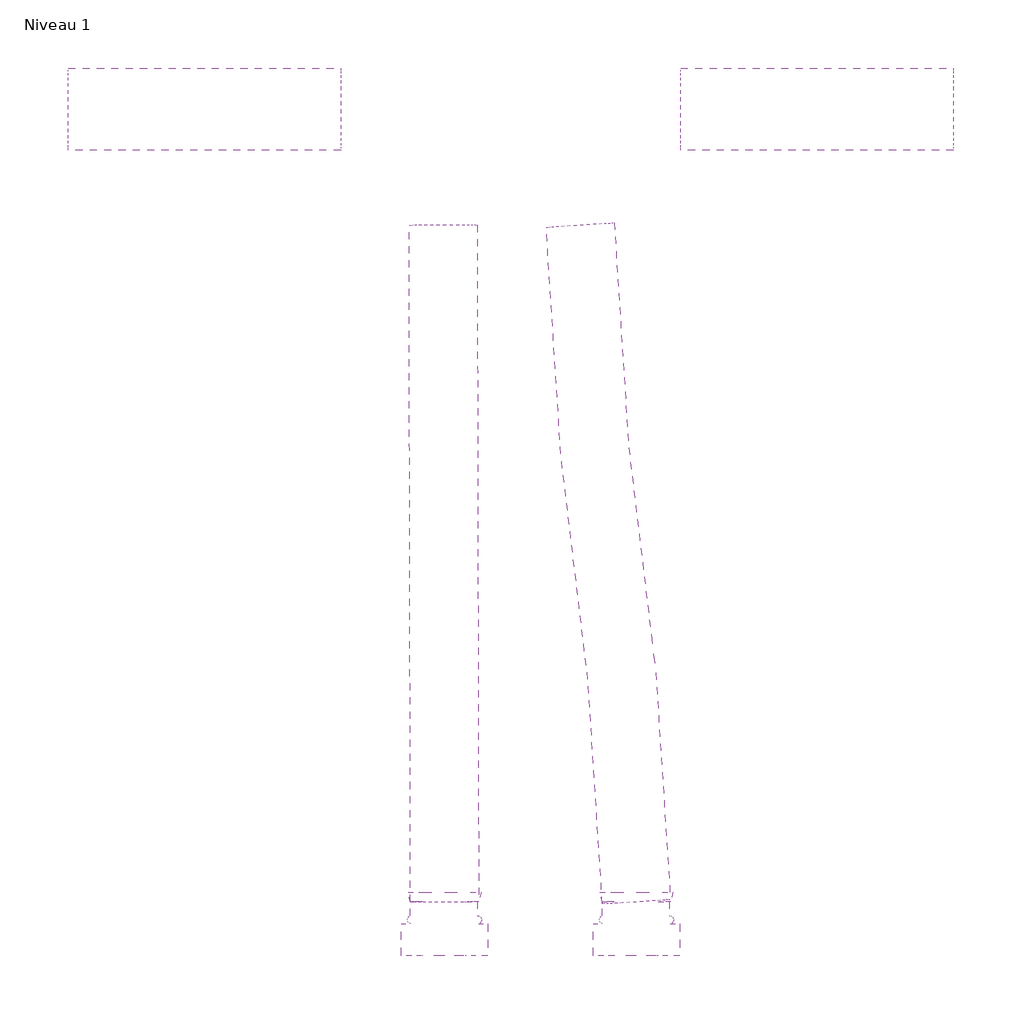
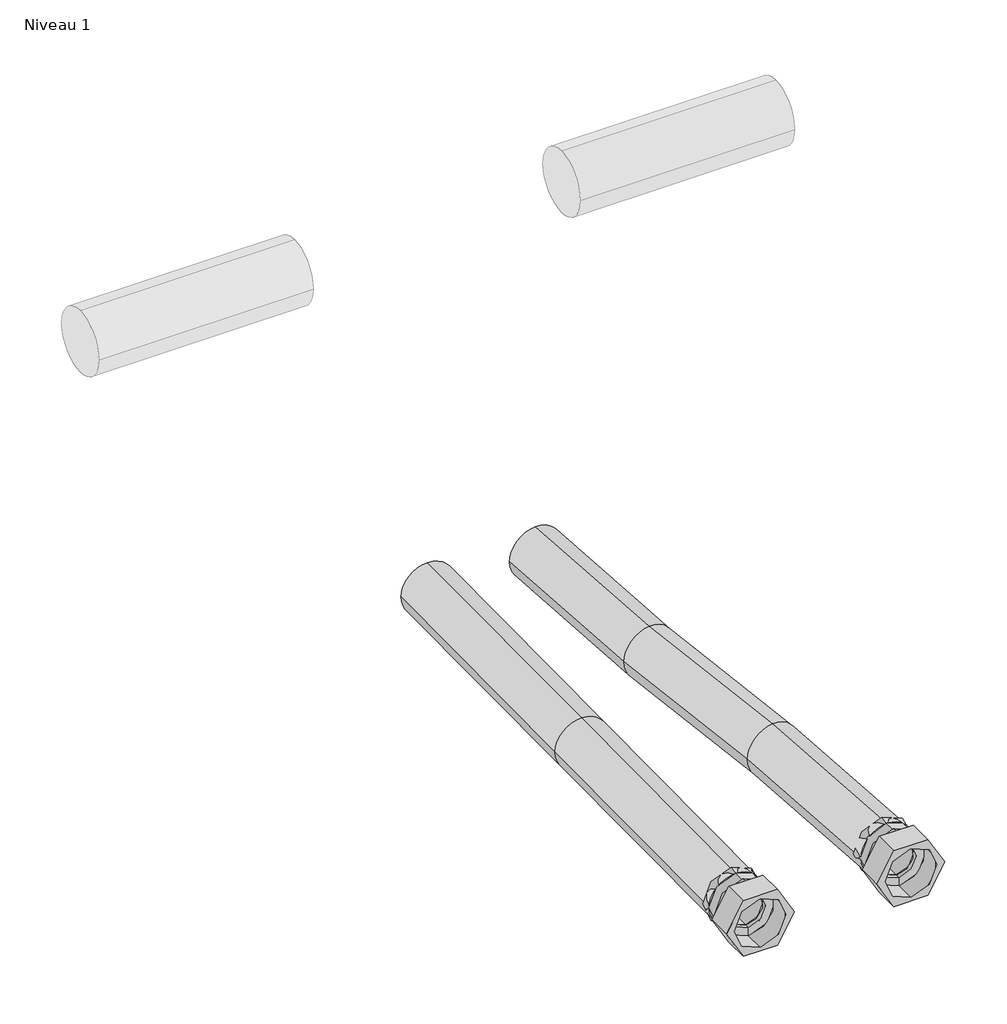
# One storey, incomplete: 4 pipe segments, 2 pipe fittings.
"""IFC4 building model written with IfcOpenShell, lengths in millimetres."""

import ifcopenshell
import ifcopenshell.guid

model = None  # the IFC model being written
_history = None  # IfcOwnerHistory: only IFC2X3 demands one
_inside = {}  # id of a spatial element -> (the spatial element, [elements in it])
_under = {}  # id of a project, library or spatial element -> (it, [spatial elements below it])
_declared = {}  # id of a project -> (the project, [libraries it declares])
_typed = {}  # id of a type object -> (the type object, [elements of that type])
_made_of = {}  # id of a material, layer set ... -> (it, [elements and type objects made of it])


def new_model(schema):
    """Start an empty IFC model of exactly this schema.

    Asked for "IFC4X3", IfcOpenShell would pick the latest addendum, in which some entities
    have other attributes; the version numbers below select the first issue.
    IFC2X3 requires an IfcOwnerHistory on every rooted entity: one is made here for all.
    """
    global model, _history
    if schema == "IFC4X3":
        model = ifcopenshell.file(schema_version=(4, 3, 0, 0))
    else:
        model = ifcopenshell.file(schema=schema)
    _inside.clear()
    _under.clear()
    _declared.clear()
    _typed.clear()
    _made_of.clear()
    _history = None
    if model.schema == "IFC2X3":
        org = make("IfcOrganization", Name="unknown")
        user = make(
            "IfcPersonAndOrganization",
            ThePerson=make("IfcPerson", FamilyName="unknown"),
            TheOrganization=org,
        )
        app = make(
            "IfcApplication",
            ApplicationDeveloper=org,
            Version="unknown",
            ApplicationFullName="unknown",
            ApplicationIdentifier="unknown",
        )
        _history = make(
            "IfcOwnerHistory",
            OwningUser=user,
            OwningApplication=app,
            ChangeAction="ADDED",
            CreationDate=0,
        )
    return model


def make(cls, **values):
    """One entity of the class cls with the attributes given. An attribute that is None is left unset."""
    return model.create_entity(
        cls, **{name: value for name, value in values.items() if value is not None}
    )


def rooted(cls, **values):
    """An entity with a GlobalId (a new one), such as an element, a storey or a relation."""
    return make(cls, GlobalId=ifcopenshell.guid.new(), OwnerHistory=_history, **values)


def si_unit(unit_type, name, prefix=None):
    """IfcSIUnit, for example si_unit("LENGTHUNIT", "METRE", prefix="MILLI")."""
    return make("IfcSIUnit", UnitType=unit_type, Prefix=prefix, Name=name)


def assignment(units):
    """IfcUnitAssignment: the units of a project."""
    return None if units is None else make("IfcUnitAssignment", Units=units)


def point(xyz):
    """IfcCartesianPoint."""
    return None if xyz is None else make("IfcCartesianPoint", Coordinates=xyz)


def direction(xyz):
    """IfcDirection."""
    return None if xyz is None else make("IfcDirection", DirectionRatios=xyz)


def frame(location, z_axis=None, x_axis=None):
    """IfcAxis2Placement3D, a coordinate frame: its origin and axes. An axis left out is left unset."""
    return make(
        "IfcAxis2Placement3D",
        Location=point(location),
        Axis=direction(z_axis),
        RefDirection=direction(x_axis),
    )


def frame_2d(location, x_axis=None):
    """IfcAxis2Placement2D, a coordinate frame in the plane: its origin and x axis."""
    return make(
        "IfcAxis2Placement2D", Location=point(location), RefDirection=direction(x_axis)
    )


def origin():
    """The frame at (0, 0, 0) with its axes left unset."""
    return frame((0.0, 0.0, 0.0))


def place(relative_to, where):
    """IfcLocalPlacement: puts the frame where relative to a parent placement (None: the world)."""
    return make(
        "IfcLocalPlacement", PlacementRelTo=relative_to, RelativePlacement=where
    )


def context(
    kind, dimensions, precision=None, world=None, true_north=None, identifier=None
):
    """IfcGeometricRepresentationContext, for example the 3D "Model" context."""
    return make(
        "IfcGeometricRepresentationContext",
        ContextIdentifier=identifier,
        ContextType=kind,
        CoordinateSpaceDimension=dimensions,
        Precision=precision,
        WorldCoordinateSystem=world,
        TrueNorth=true_north,
    )


def project(units=None, contexts=None):
    """IfcProject with its units and contexts."""
    return rooted(
        "IfcProject",
        Name="project",
        RepresentationContexts=contexts,
        UnitsInContext=assignment(units),
    )


def spatial(cls, under=None, at=None, **own):
    """A site, building, storey or space (cls), placed at a placement, below another one or the project."""
    s = rooted(cls, ObjectPlacement=at, **own)
    if under is not None:
        _under.setdefault(under.id(), (under, []))[1].append(s)
    return s


def polyline(points):
    """IfcPolyline through the points."""
    return make("IfcPolyline", Points=[point(p) for p in points])


def circle_curve(where, radius):
    """IfcCircle in the frame where."""
    return make("IfcCircle", Position=where, Radius=radius)


def ellipse_curve(where, semi_axis1, semi_axis2):
    """IfcEllipse in the frame where."""
    return make(
        "IfcEllipse", Position=where, SemiAxis1=semi_axis1, SemiAxis2=semi_axis2
    )


def trimmed(basis, trim1, trim2, sense, master):
    """IfcTrimmedCurve: the piece of a basis curve between two trims."""
    return make(
        "IfcTrimmedCurve",
        BasisCurve=basis,
        Trim1=trim1,
        Trim2=trim2,
        SenseAgreement=sense,
        MasterRepresentation=master,
    )


def segment(curve, same_sense, transition):
    """IfcCompositeCurveSegment."""
    return make(
        "IfcCompositeCurveSegment",
        Transition=transition,
        SameSense=same_sense,
        ParentCurve=curve,
    )


def composite_curve(segments, self_intersect=None):
    """IfcCompositeCurve: segments joined end to end."""
    return make("IfcCompositeCurve", Segments=segments, SelfIntersect=self_intersect)


def outline(outer, holes=None, kind="AREA"):
    """IfcArbitraryClosedProfileDef: a profile drawn as a closed curve; with holes, ...WithVoids."""
    if holes is None:
        return make("IfcArbitraryClosedProfileDef", ProfileType=kind, OuterCurve=outer)
    return make(
        "IfcArbitraryProfileDefWithVoids",
        ProfileType=kind,
        OuterCurve=outer,
        InnerCurves=holes,
    )


def extrude(swept, where, along, depth):
    """IfcExtrudedAreaSolid: the profile swept, set in the frame where, extruded along a direction by depth."""
    return make(
        "IfcExtrudedAreaSolid",
        SweptArea=swept,
        Position=where,
        ExtrudedDirection=direction(along),
        Depth=depth,
    )


def shape(context_of_items, identifier, shape_type, items):
    """IfcShapeRepresentation: the items that make up one representation, for example the "Body"."""
    return make(
        "IfcShapeRepresentation",
        ContextOfItems=context_of_items,
        RepresentationIdentifier=identifier,
        RepresentationType=shape_type,
        Items=items,
    )


def source(mapping_origin, context_of_items, identifier, shape_type, items):
    """IfcRepresentationMap: a shape defined once, which mapped items show again and again."""
    return make(
        "IfcRepresentationMap",
        MappingOrigin=mapping_origin,
        MappedRepresentation=shape(context_of_items, identifier, shape_type, items),
    )


def transform(
    local_origin,
    x_axis=None,
    y_axis=None,
    z_axis=None,
    scale=None,
    scale2=None,
    scale3=None,
    uniform=True,
):
    """IfcCartesianTransformationOperator3D, or its non-uniform kind. x_axis, y_axis, z_axis: its Axis1, 2, 3."""
    if uniform:
        return make(
            "IfcCartesianTransformationOperator3D",
            Axis1=direction(x_axis),
            Axis2=direction(y_axis),
            LocalOrigin=point(local_origin),
            Scale=scale,
            Axis3=direction(z_axis),
        )
    return make(
        "IfcCartesianTransformationOperator3DnonUniform",
        Axis1=direction(x_axis),
        Axis2=direction(y_axis),
        LocalOrigin=point(local_origin),
        Scale=scale,
        Axis3=direction(z_axis),
        Scale2=scale2,
        Scale3=scale3,
    )


def mapped(mapping_source, mapping_target):
    """IfcMappedItem: shows the shape of a source again, moved by a transform."""
    return make(
        "IfcMappedItem", MappingSource=mapping_source, MappingTarget=mapping_target
    )


def made_of(thing, what):
    """Note that an element or type object is made of a material, layer set ...; save() writes the relation."""
    if what is not None:
        _made_of.setdefault(what.id(), (what, []))[1].append(thing)
    return thing


def element(
    cls,
    number,
    at=None,
    inside=None,
    cuts=None,
    type_object=None,
    material=None,
    context=None,
    identifier="Body",
    shape_type=None,
    held_by="IfcProductDefinitionShape",
    body=None,
    shapes=None,
    **own,
):
    """One element of the class cls, such as IfcWall. Its Tag is "e" and its number.

    at: its placement. inside: the storey or other place that contains it. cuts: it is an
    opening in that element (IfcRelVoidsElement). A single representation is given by context,
    identifier, shape_type and body (its items); several are given by shapes. held_by: the class
    of the entity that holds the representations. save() writes the other relations.
    """
    e = rooted(cls, Tag="e%d" % number, ObjectPlacement=at, **own)
    if body is not None:
        shapes = [shape(context, identifier, shape_type, body)]
    if shapes is not None:
        e.Representation = make(held_by, Representations=shapes)
    if inside is not None:
        _inside.setdefault(inside.id(), (inside, []))[1].append(e)
    if cuts is not None:
        rooted(
            "IfcRelVoidsElement", RelatingBuildingElement=cuts, RelatedOpeningElement=e
        )
    if type_object is not None:
        _typed.setdefault(type_object.id(), (type_object, []))[1].append(e)
    return made_of(e, material)


def aggregate(whole, parts):
    """IfcRelAggregates: a whole, such as a stair, and the parts it consists of."""
    return rooted("IfcRelAggregates", RelatingObject=whole, RelatedObjects=parts)


def save(model, path):
    """Write the relations noted so far, then the file.

    IfcRelAggregates (storeys below a building ...), IfcRelContainedInSpatialStructure (elements
    in a storey), IfcRelDefinesByType, IfcRelAssociatesMaterial and IfcRelDeclares: one each for
    every whole, place, type object, material and project.
    """
    for whole, parts in _under.values():
        aggregate(whole, parts)
    for where, things in _inside.values():
        rooted(
            "IfcRelContainedInSpatialStructure",
            RelatedElements=things,
            RelatingStructure=where,
        )
    for kind, things in _typed.values():
        rooted("IfcRelDefinesByType", RelatedObjects=things, RelatingType=kind)
    for what, things in _made_of.values():
        rooted("IfcRelAssociatesMaterial", RelatedObjects=things, RelatingMaterial=what)
    for by, libraries in _declared.values():
        rooted("IfcRelDeclares", RelatingContext=by, RelatedDefinitions=libraries)
    model.write(path)


def plane_surface(at):
    """IfcPlane: the flat surface through the origin of the frame at, square to its z axis."""
    return make("IfcPlane", Position=at)


def cylinder_surface(at, radius):
    """IfcCylindricalSurface: all points at the distance radius from the z axis of the frame at."""
    return make("IfcCylindricalSurface", Position=at, Radius=radius)


def revolved_surface(curve, axis_point, axis_direction):
    """IfcSurfaceOfRevolution: the curve turned about the line through axis_point along axis_direction."""
    return make(
        "IfcSurfaceOfRevolution",
        SweptCurve=make("IfcArbitraryOpenProfileDef", ProfileType="CURVE", Curve=curve),
        AxisPosition=make("IfcAxis1Placement", Location=point(axis_point), Axis=direction(axis_direction)),
    )


def advanced_brep(points, edges, surfaces, faces):
    """IfcAdvancedBrep: a solid bounded by faces that lie on surfaces and meet in shared edges.

    An edge is (start, end): straight between two places in points (the first is 0);
    or (start, end, curve); or (start, end, curve, False) where it runs against its curve.
    A face is (place in surfaces, loops), or (place, loops, False) where it looks against
    its surface's normal. A loop lists edges by number (the first is 1), with a minus sign
    where the edge is run from its end to its start. The first loop is the outer one.
    """
    corners = [point(p) for p in points]
    vertices = [make("IfcVertexPoint", VertexGeometry=c) for c in corners]
    made = []
    for start, end, *more in edges:
        made.append(
            make(
                "IfcEdgeCurve",
                EdgeStart=vertices[start],
                EdgeEnd=vertices[end],
                EdgeGeometry=more[0] if more else make("IfcPolyline", Points=[corners[start], corners[end]]),
                SameSense=more[1] if len(more) > 1 else True,
            )
        )
    hull = []
    for where, loops, *sense in faces:
        bounds = []
        for j, loop in enumerate(loops):
            ring = [make("IfcOrientedEdge", EdgeElement=made[abs(k) - 1], Orientation=k > 0) for k in loop]
            bounds.append(
                make(
                    "IfcFaceOuterBound" if j == 0 else "IfcFaceBound",
                    Bound=make("IfcEdgeLoop", EdgeList=ring),
                    Orientation=True,
                )
            )
        hull.append(make("IfcAdvancedFace", Bounds=bounds, FaceSurface=surfaces[where], SameSense=sense[0] if sense else True))
    return make("IfcAdvancedBrep", Outer=make("IfcClosedShell", CfsFaces=hull))


def pipe_fitting_73059a0c(model_context):
    return source(origin(), model_context, "Body", "AdvancedBrep", [
        advanced_brep(
        [(0.0, 39.498215, -25.1751434), (0.0, 39.498215, 25.1751434), (0.0, 29.498215, 25.1751434), (0.0, 29.498215, -25.1751434), (0.0, 46.7939176, -26.7356506), (0.0, 46.7939176, 26.7356506), (0.0, 39.6718759, -24.3627676), (0.0, 39.6718759, 24.3627676), (0.0, 46.7939176, 25.7671136), (0.0, 46.7939176, -25.7671136), (0.0, 39.6718759, -16.0916757), (0.0, 39.6718759, 16.0916757), (0.0, 23.3958279, -24.9934981), (0.0, 23.3958279, 24.9934981), (0.0, 23.3958279, 16.0916757), (0.0, 23.3958279, -16.0916757)],
        [
            (0, 1, circle_curve(frame((0.0, 39.498215, 0.0), z_axis=(0.0, -1.0, 0.0), x_axis=(0.0, 0.0, 1.0)), 25.1751434)),
            (1, 2),
            (2, 3, circle_curve(frame((0.0, 29.498215, 0.0), z_axis=(0.0, 1.0, 0.0), x_axis=(0.0, 0.0, 1.0)), 25.1751434)),
            (3, 0),
            (1, 0, circle_curve(frame((0.0, 39.498215, 0.0), z_axis=(0.0, -1.0, 0.0), x_axis=(0.0, 0.0, 1.0)), 25.1751434)),
            (3, 2, circle_curve(frame((0.0, 29.498215, 0.0), z_axis=(0.0, 1.0, 0.0), x_axis=(0.0, 0.0, 1.0)), 25.1751434)),
            (0, 4, circle_curve(frame((0.0, 46.3570069, -10.9435686), z_axis=(1.0, 0.0, 0.0), x_axis=(0.0, -1.0, 0.0)), 15.7981248)),
            (4, 5, circle_curve(frame((0.0, 46.7939176, 0.0), z_axis=(0.0, -1.0, 0.0), x_axis=(0.0, 0.0, 1.0)), 26.7356506)),
            (5, 1, circle_curve(frame((0.0, 46.3570069, 10.9435686), z_axis=(1.0, 0.0, 0.0), x_axis=(0.0, -1.0, 0.0)), 15.7981248)),
            (5, 4, circle_curve(frame((0.0, 46.7939176, 0.0), z_axis=(0.0, -1.0, 0.0), x_axis=(0.0, 0.0, 1.0)), 26.7356506)),
            (6, 7, circle_curve(frame((0.0, 39.6718759, 0.0), z_axis=(0.0, -1.0, 0.0), x_axis=(0.0, 0.0, 1.0)), 24.3627676)),
            (7, 8, circle_curve(frame((0.0, 46.1278476, 10.3834015), z_axis=(-1.0, 0.0, 0.0), x_axis=(0.0, -1.0, 0.0)), 15.3981248)),
            (8, 9, circle_curve(frame((0.0, 46.7939176, 0.0), z_axis=(0.0, 1.0, 0.0), x_axis=(0.0, 0.0, 1.0)), 25.7671136)),
            (9, 6, circle_curve(frame((0.0, 46.1278476, -10.3834015), z_axis=(-1.0, 0.0, 0.0), x_axis=(0.0, -1.0, 0.0)), 15.3981248)),
            (7, 6, circle_curve(frame((0.0, 39.6718759, 0.0), z_axis=(0.0, -1.0, 0.0), x_axis=(0.0, 0.0, 1.0)), 24.3627676)),
            (9, 8, circle_curve(frame((0.0, 46.7939176, 0.0), z_axis=(0.0, 1.0, 0.0), x_axis=(0.0, 0.0, 1.0)), 25.7671136)),
            (6, 10),
            (10, 11, circle_curve(frame((0.0, 39.6718759, 0.0), z_axis=(0.0, -1.0, 0.0), x_axis=(0.0, 0.0, 1.0)), 16.0916757)),
            (11, 7),
            (11, 10, circle_curve(frame((0.0, 39.6718759, 0.0), z_axis=(0.0, -1.0, 0.0), x_axis=(0.0, 0.0, 1.0)), 16.0916757)),
            (12, 13, circle_curve(frame((0.0, 23.3958279, 0.0), z_axis=(0.0, -1.0, 0.0), x_axis=(0.0, 0.0, 1.0)), 24.9934981)),
            (13, 14),
            (14, 15, circle_curve(frame((0.0, 23.3958279, 0.0), z_axis=(0.0, 1.0, 0.0), x_axis=(0.0, 0.0, 1.0)), 16.0916757)),
            (15, 12),
            (13, 12, circle_curve(frame((0.0, 23.3958279, 0.0), z_axis=(0.0, -1.0, 0.0), x_axis=(0.0, 0.0, 1.0)), 24.9934981)),
            (15, 14, circle_curve(frame((0.0, 23.3958279, 0.0), z_axis=(0.0, 1.0, 0.0), x_axis=(0.0, 0.0, 1.0)), 16.0916757)),
            (2, 13, circle_curve(frame((0.0, 26.4795374, 23.9919456), z_axis=(1.0, 0.0, 0.0), x_axis=(0.0, -1.0, 0.0)), 3.2422788)),
            (12, 3, circle_curve(frame((0.0, 26.4795374, -23.9919456), z_axis=(1.0, 0.0, 0.0), x_axis=(0.0, -1.0, 0.0)), 3.2422788)),
            (14, 11),
            (10, 15),
            (4, 9),
            (8, 5),
        ],
        [
            cylinder_surface(frame((0.0, -30.0, 0.0), z_axis=(0.0, 1.0, 0.0), x_axis=(0.0, 0.0, 1.0)), 25.1751434),
            revolved_surface(trimmed(ellipse_curve(frame((0.0, 46.3570069, 10.9435686), z_axis=(-1.0, 0.0, 0.0), x_axis=(0.0, -1.0, 0.0)), 15.7981248, 15.7981248), [point((0.0, 39.498215, 25.1751434))], [point((0.0, 46.7939176, 26.7356506))], True, "CARTESIAN"), (0.0, -30.0, 0.0), (0.0, 1.0, 0.0)),
            revolved_surface(trimmed(ellipse_curve(frame((0.0, 46.1278476, 10.3834015), z_axis=(1.0, 0.0, 0.0), x_axis=(0.0, -1.0, 0.0)), 15.3981248, 15.3981248), [point((0.0, 46.7939176, 25.7671136))], [point((0.0, 39.6718759, 24.3627676))], True, "CARTESIAN"), (0.0, -30.0, 0.0), (0.0, 1.0, 0.0)),
            plane_surface(frame((0.0, 39.6718759, 0.0), z_axis=(0.0, 1.0, 0.0), x_axis=(0.0, 0.0, 1.0))),
            plane_surface(frame((0.0, 23.3958279, 0.0), z_axis=(0.0, -1.0, 0.0), x_axis=(0.0, 0.0, 1.0))),
            revolved_surface(trimmed(ellipse_curve(frame((0.0, 26.4795374, 23.9919456), z_axis=(-1.0, 0.0, 0.0), x_axis=(0.0, -1.0, 0.0)), 3.2422788, 3.2422788), [point((0.0, 23.3958279, 24.9934981))], [point((0.0, 29.498215, 25.1751434))], True, "CARTESIAN"), (0.0, -30.0, 0.0), (0.0, 1.0, 0.0)),
            revolved_surface(polyline([(0.0, 39.6718759, 16.0916757), (0.0, 23.3958279, 16.0916757)]), (0.0, 6.7414234, 0.0), (0.0, 1.0, 0.0)),
            plane_surface(frame((0.0, 46.7939176, 0.0), z_axis=(0.0, 1.0, 0.0), x_axis=(0.0, 0.0, 1.0))),
        ],
        [
            (0, [[1, 2, 3, 4]]),
            (0, [[-2, 5, -4, 6]]),
            (1, [[-1, 7, 8, 9]]),
            (1, [[-5, -9, 10, -7]]),
            (2, [[11, 12, 13, 14]]),
            (2, [[-12, 15, -14, 16]]),
            (3, [[-11, 17, 18, 19]]),
            (3, [[-15, -19, 20, -17]]),
            (4, [[21, 22, 23, 24]]),
            (4, [[25, -24, 26, -22]]),
            (5, [[-3, 27, -21, 28]]),
            (5, [[-6, -28, -25, -27]]),
            (6, [[29, -18, 30, -23]]),
            (6, [[-29, -26, -30, -20]]),
            (7, [[-8, 31, -13, 32]]),
            (7, [[-10, -32, -16, -31]]),
        ],
    ),
        advanced_brep(
        [(15.8771324, 23.3958279, 27.5), (31.7542648, 23.3958279, 0.0), (15.8771324, 23.3958279, -27.5), (-15.8771324, 23.3958279, -27.5), (-31.7542648, 23.3958279, 0.0), (-15.8771324, 23.3958279, 27.5), (0.0, 23.3958279, -16.1061091), (0.0, 23.3958279, 16.1061091), (15.8771324, 0.0, 27.5), (-15.8771324, 0.0, 27.5), (-31.7542648, 0.0, 0.0), (-15.8771324, 0.0, -27.5), (15.8771324, 0.0, -27.5), (31.7542648, 0.0, 0.0), (0.0, 0.0, 24.1061091), (0.0, 0.0, -24.1061091), (0.0, 18.8507541, -16.1061091), (0.0, 18.8507541, -24.1061091), (0.0, 18.8507541, 24.1061091), (0.0, 18.8507541, 16.1061091)],
        [
            (0, 1),
            (1, 2),
            (2, 3),
            (3, 4),
            (4, 5),
            (5, 0),
            (6, 7, circle_curve(frame((0.0, 23.3958279, 0.0), z_axis=(0.0, -1.0, 0.0), x_axis=(0.0, 0.0, 1.0)), 16.1061091)),
            (7, 6, circle_curve(frame((0.0, 23.3958279, 0.0), z_axis=(0.0, -1.0, 0.0), x_axis=(0.0, 0.0, 1.0)), 16.1061091)),
            (8, 9),
            (9, 10),
            (10, 11),
            (11, 12),
            (12, 13),
            (13, 8),
            (14, 15, circle_curve(frame((0.0, 0.0, 0.0), z_axis=(0.0, 1.0, 0.0), x_axis=(0.0, 0.0, 1.0)), 24.1061091)),
            (15, 14, circle_curve(frame((0.0, 0.0, 0.0), z_axis=(0.0, 1.0, 0.0), x_axis=(0.0, 0.0, 1.0)), 24.1061091)),
            (0, 8),
            (13, 1),
            (12, 2),
            (11, 3),
            (10, 4),
            (9, 5),
            (16, 17),
            (17, 18, circle_curve(frame((0.0, 18.8507541, 0.0), z_axis=(0.0, -1.0, 0.0), x_axis=(0.0, 0.0, 1.0)), 24.1061091)),
            (18, 19),
            (19, 16, circle_curve(frame((0.0, 18.8507541, 0.0), z_axis=(0.0, 1.0, 0.0), x_axis=(0.0, 0.0, 1.0)), 16.1061091)),
            (16, 19, circle_curve(frame((0.0, 18.8507541, 0.0), z_axis=(0.0, 1.0, 0.0), x_axis=(0.0, 0.0, 1.0)), 16.1061091)),
            (18, 17, circle_curve(frame((0.0, 18.8507541, 0.0), z_axis=(0.0, -1.0, 0.0), x_axis=(0.0, 0.0, 1.0)), 24.1061091)),
            (17, 15),
            (14, 18),
            (19, 7),
            (6, 16),
        ],
        [
            plane_surface(frame((7.9385662, 23.3958279, 41.25), z_axis=(0.0, 1.0, 0.0), x_axis=(0.4999999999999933, 0.0, -0.8660254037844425))),
            plane_surface(frame((7.9385662, 0.0, 41.25), z_axis=(0.0, -1.0, 0.0), x_axis=(-0.4999999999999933, 0.0, 0.8660254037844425))),
            plane_surface(frame((15.8771324, 23.3958279, 27.5), z_axis=(0.8660254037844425, 0.0, 0.4999999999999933), x_axis=(0.0, -1.0, 0.0))),
            plane_surface(frame((31.7542648, 23.3958279, 0.0), z_axis=(0.8660254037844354, 0.0, -0.5000000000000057), x_axis=(0.0, -1.0, 0.0))),
            plane_surface(frame((15.8771324, 23.3958279, -27.5), z_axis=(0.0, 0.0, -1.0), x_axis=(0.0, -1.0, 0.0))),
            plane_surface(frame((-15.8771324, 23.3958279, -27.5), z_axis=(-0.8660254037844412, 0.0, -0.4999999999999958), x_axis=(0.0, -1.0, 0.0))),
            plane_surface(frame((-31.7542648, 23.3958279, 0.0), z_axis=(-0.8660254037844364, 0.0, 0.500000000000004), x_axis=(0.0, -1.0, 0.0))),
            plane_surface(frame((-15.8771324, 23.3958279, 27.5), z_axis=(0.0, 0.0, 1.0), x_axis=(0.0, -1.0, 0.0))),
            plane_surface(frame((0.0, 18.8507541, 0.0), z_axis=(0.0, -1.0, 0.0), x_axis=(0.0, 0.0, 1.0))),
            revolved_surface(polyline([(0.0, 18.850754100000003, 24.1061091), (0.0, 0.0, 24.1061091)]), (0.0, -30.0, 0.0), (0.0, 1.0, 0.0)),
            revolved_surface(polyline([(0.0, 23.3958279, 16.1061091), (0.0, 18.850754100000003, 16.1061091)]), (0.0, -30.0, 0.0), (0.0, 1.0, 0.0)),
        ],
        [
            (0, [[1, 2, 3, 4, 5, 6], [7, 8]]),
            (1, [[9, 10, 11, 12, 13, 14], [15, 16]]),
            (2, [[-1, 17, -14, 18]]),
            (3, [[-2, -18, -13, 19]]),
            (4, [[-3, -19, -12, 20]]),
            (5, [[-4, -20, -11, 21]]),
            (6, [[-5, -21, -10, 22]]),
            (7, [[-6, -22, -9, -17]]),
            (8, [[23, 24, 25, 26]]),
            (8, [[-23, 27, -25, 28]]),
            (9, [[-24, 29, -15, 30]]),
            (9, [[-28, -30, -16, -29]]),
            (10, [[-26, 31, -7, 32]]),
            (10, [[-27, -32, -8, -31]]),
        ],
    ),
    ])


model = new_model("IFC4")

# Units and contexts
model_context = context("Model", 3, world=origin())
ifc_project = project(units=[si_unit("LENGTHUNIT", "METRE", prefix="MILLI")], contexts=[model_context])

# Site, building, storey
site = spatial("IfcSite", under=ifc_project)
building = spatial("IfcBuilding", under=site)
storey = spatial("IfcBuildingStorey", under=building, Name="Niveau 1", Elevation=0.0)

# Pipe fittings
placement = place(None, origin())
pipe_fitting_shape = pipe_fitting_73059a0c(model_context)
element("IfcPipeFitting", 1, ObjectType="BWT_Raccord Aval : BWT_Raccord Aval", at=placement, inside=storey, context=model_context, shape_type="MappedRepresentation", body=[
    mapped(pipe_fitting_shape, transform((2762.634443, -2753.9395637, 1666.2), x_axis=(1.0000000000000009, 0.0, 0.0), y_axis=(0.0, 1.0000000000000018, 0.0), z_axis=(0.0, 0.0, 1.0000000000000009))),
])
element("IfcPipeFitting", 2, ObjectType="BWT_Raccord Aval : BWT_Raccord Aval", at=placement, inside=storey, context=model_context, shape_type="MappedRepresentation", body=[
    mapped(pipe_fitting_shape, transform((2903.3444087, -2753.9395637, 1666.2), x_axis=(1.0000000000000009, 0.0, 0.0), y_axis=(0.0, 1.0000000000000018, 0.0), z_axis=(0.0, 0.0, 1.0000000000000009))),
])

# Pipe segments
element("IfcPipeSegment", 3, ObjectType="Souple - Circulaire", at=placement, inside=storey, context=model_context, shape_type="AdvancedBrep", body=[
    advanced_brep(
    [(2878.3964088, -2715.8793022, 1666.2), (2903.3289947, -2714.0290775, 1641.2011435), (2928.2924086, -2712.6560733, 1666.2), (2903.3598227, -2714.506298, 1691.1988565), (2867.7457522, -2551.0057652, 1667.7802596), (2892.6272983, -2548.3654366, 1642.788976), (2917.5528367, -2546.4061165, 1667.7934521), (2892.6712907, -2549.0464452, 1692.7847358), (2837.1438254, -2219.5827583, 1672.3207297), (2862.1072393, -2218.2097541, 1697.3195863), (2887.0398252, -2216.3595293, 1672.3207297), (2862.0764113, -2217.7325336, 1647.3218732), (2847.8833973, -2385.8327151, 1670.7272776), (2872.7649433, -2383.1923864, 1645.735994), (2897.6904818, -2381.2330663, 1670.7404702), (2872.8089357, -2383.873395, 1695.7317538)],
    [
        (0, 1, circle_curve(frame((2903.3444087, -2714.2676878, 1666.2), z_axis=(0.06446163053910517, -0.9978743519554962, -0.00956430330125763), x_axis=(-0.9979199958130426, -0.06446457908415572, 0.0)), 25.0)),
        (1, 2, circle_curve(frame((2903.3444087, -2714.2676878, 1666.2), z_axis=(0.06446163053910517, -0.9978743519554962, -0.00956430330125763), x_axis=(-0.9979199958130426, -0.06446457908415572, 0.0)), 25.0)),
        (2, 3, circle_curve(frame((2903.3444087, -2714.2676878, 1666.2), z_axis=(0.06446163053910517, -0.9978743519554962, -0.00956430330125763), x_axis=(-0.9979199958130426, -0.06446457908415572, 0.0)), 25.0)),
        (3, 0, circle_curve(frame((2903.3444087, -2714.2676878, 1666.2), z_axis=(0.06446163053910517, -0.9978743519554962, -0.00956430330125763), x_axis=(-0.9979199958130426, -0.06446457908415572, 0.0)), 25.0)),
        (0, 4),
        (4, 5, ellipse_curve(frame((2892.6492945, -2548.7059409, 1667.7868559), z_axis=(0.0919530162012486, -0.9956698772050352, -0.013643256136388), x_axis=(-0.9848881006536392, -0.09295964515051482, 0.14612985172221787)), 25.0097197, 25.0)),
        (5, 1),
        (5, 6, ellipse_curve(frame((2892.6492945, -2548.7059409, 1667.7868559), z_axis=(0.0919530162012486, -0.9956698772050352, -0.013643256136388), x_axis=(-0.9848881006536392, -0.09295964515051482, 0.14612985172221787)), 25.0097197, 25.0)),
        (6, 2),
        (6, 7, ellipse_curve(frame((2892.6492945, -2548.7059409, 1667.7868559), z_axis=(0.0919530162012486, -0.9956698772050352, -0.013643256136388), x_axis=(-0.9848881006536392, -0.09295964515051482, 0.14612985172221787)), 25.0097197, 25.0)),
        (7, 3),
        (7, 4, ellipse_curve(frame((2892.6492945, -2548.7059409, 1667.7868559), z_axis=(0.0919530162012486, -0.9956698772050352, -0.013643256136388), x_axis=(-0.9848881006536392, -0.09295964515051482, 0.14612985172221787)), 25.0097197, 25.0)),
        (8, 9, circle_curve(frame((2862.0918253, -2217.9711438, 1672.3207297), z_axis=(-0.06446163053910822, 0.997874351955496, 0.0095643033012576), x_axis=(-0.9979199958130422, -0.06446457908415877, 0.0)), 25.0)),
        (9, 10, circle_curve(frame((2862.0918253, -2217.9711438, 1672.3207297), z_axis=(-0.06446163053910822, 0.997874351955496, 0.0095643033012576), x_axis=(-0.9979199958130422, -0.06446457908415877, 0.0)), 25.0)),
        (10, 11, circle_curve(frame((2862.0918253, -2217.9711438, 1672.3207297), z_axis=(-0.06446163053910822, 0.997874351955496, 0.0095643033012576), x_axis=(-0.9979199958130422, -0.06446457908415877, 0.0)), 25.0)),
        (11, 8, circle_curve(frame((2862.0918253, -2217.9711438, 1672.3207297), z_axis=(-0.06446163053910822, 0.997874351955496, 0.0095643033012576), x_axis=(-0.9979199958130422, -0.06446457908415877, 0.0)), 25.0)),
        (4, 12),
        (12, 13, ellipse_curve(frame((2872.7869395, -2383.5328907, 1670.7338739), z_axis=(0.09195301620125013, -0.9956698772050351, -0.013643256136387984), x_axis=(0.9848881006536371, 0.09295964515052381, -0.1461298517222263)), 25.0097197, 25.0)),
        (13, 5),
        (13, 14, ellipse_curve(frame((2872.7869395, -2383.5328907, 1670.7338739), z_axis=(0.09195301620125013, -0.9956698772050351, -0.013643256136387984), x_axis=(0.9848881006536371, 0.09295964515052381, -0.1461298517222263)), 25.0097197, 25.0)),
        (14, 6),
        (14, 15, ellipse_curve(frame((2872.7869395, -2383.5328907, 1670.7338739), z_axis=(0.09195301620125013, -0.9956698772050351, -0.013643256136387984), x_axis=(0.9848881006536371, 0.09295964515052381, -0.1461298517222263)), 25.0097197, 25.0)),
        (15, 7),
        (15, 12, ellipse_curve(frame((2872.7869395, -2383.5328907, 1670.7338739), z_axis=(0.09195301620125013, -0.9956698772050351, -0.013643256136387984), x_axis=(0.9848881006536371, 0.09295964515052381, -0.1461298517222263)), 25.0097197, 25.0)),
        (12, 8),
        (11, 13),
        (10, 14),
        (9, 15),
    ],
    [
        plane_surface(frame((2903.3444087, -2714.5072937, 1691.1988518), z_axis=(0.06446163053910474, -0.9978743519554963, -0.00956430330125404), x_axis=(0.9979201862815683, 0.06445866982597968, 0.0006178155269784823))),
        cylinder_surface(frame((2903.3444087, -2714.2676878, 1666.2), z_axis=(0.06446163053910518, -0.9978743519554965, -0.009564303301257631), x_axis=(-0.9979199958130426, -0.06446457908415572, 0.0)), 25.0),
        plane_surface(frame((2862.0918253, -2218.2107497, 1697.3195815), z_axis=(-0.06446163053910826, 0.997874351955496, 0.009564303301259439), x_axis=(0.9979201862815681, 0.06445866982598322, 0.0006178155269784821))),
        cylinder_surface(frame((2892.6492945, -2548.7059409, 1667.7868559), z_axis=(0.11937292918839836, -0.9926914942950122, -0.017711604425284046), x_axis=(-0.9928485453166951, -0.11937838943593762, -0.0007524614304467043)), 25.0),
        cylinder_surface(frame((2872.7869395, -2383.5328907, 1670.7338739), z_axis=(0.06446163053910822, -0.997874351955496, -0.0095643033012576), x_axis=(-0.9979199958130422, -0.06446457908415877, 0.0)), 25.0),
    ],
    [
        (0, [[1, 2, 3, 4]]),
        (1, [[-1, 5, 6, 7]]),
        (1, [[-2, -7, 8, 9]]),
        (1, [[-3, -9, 10, 11]]),
        (1, [[-4, -11, 12, -5]]),
        (2, [[13, 14, 15, 16]]),
        (3, [[-6, 17, 18, 19]]),
        (3, [[-8, -19, 20, 21]]),
        (3, [[-10, -21, 22, 23]]),
        (3, [[-12, -23, 24, -17]]),
        (4, [[-18, 25, -16, 26]]),
        (4, [[-20, -26, -15, 27]]),
        (4, [[-22, -27, -14, 28]]),
        (4, [[-24, -28, -13, -25]]),
    ],
),
])
element("IfcPipeSegment", 4, ObjectType="Souple - Circulaire", at=placement, inside=storey, context=model_context, shape_type="AdvancedBrep", body=[
    advanced_brep(
    [(2737.6345032, -2714.3225371, 1666.2), (2762.6337667, -2713.9593925, 1641.201901), (2787.6343829, -2714.2128384, 1666.2), (2762.6351194, -2714.575983, 1691.198099), (2737.0900713, -2466.1742651, 1669.2603649), (2762.0893347, -2465.8111205, 1644.2622659), (2787.0899509, -2466.0645665, 1669.2603649), (2762.0906875, -2466.427711, 1694.2584639), (2736.5456393, -2218.0259931, 1672.3207297), (2761.5462556, -2218.2794391, 1697.3188287), (2786.545519, -2217.9162945, 1672.3207297), (2761.5449028, -2217.6628486, 1647.3226307)],
    [
        (0, 1, circle_curve(frame((2762.634443, -2714.2676878, 1666.2), z_axis=(0.002193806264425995, -0.9999215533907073, -0.012331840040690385), x_axis=(-0.9999975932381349, -0.002193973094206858, 0.0)), 25.0)),
        (1, 2, circle_curve(frame((2762.634443, -2714.2676878, 1666.2), z_axis=(0.002193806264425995, -0.9999215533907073, -0.012331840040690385), x_axis=(-0.9999975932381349, -0.002193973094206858, 0.0)), 25.0)),
        (2, 3, circle_curve(frame((2762.634443, -2714.2676878, 1666.2), z_axis=(0.002193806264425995, -0.9999215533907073, -0.012331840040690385), x_axis=(-0.9999975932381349, -0.002193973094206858, 0.0)), 25.0)),
        (3, 0, circle_curve(frame((2762.634443, -2714.2676878, 1666.2), z_axis=(0.002193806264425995, -0.9999215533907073, -0.012331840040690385), x_axis=(-0.9999975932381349, -0.002193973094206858, 0.0)), 25.0)),
        (0, 4),
        (4, 5, circle_curve(frame((2762.0900111, -2466.1194158, 1669.2603649), z_axis=(0.002193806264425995, -0.9999215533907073, -0.012331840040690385), x_axis=(-0.9999975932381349, -0.002193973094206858, 0.0)), 25.0)),
        (5, 1),
        (5, 6, circle_curve(frame((2762.0900111, -2466.1194158, 1669.2603649), z_axis=(0.002193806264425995, -0.9999215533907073, -0.012331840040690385), x_axis=(-0.9999975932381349, -0.002193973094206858, 0.0)), 25.0)),
        (6, 2),
        (6, 7, circle_curve(frame((2762.0900111, -2466.1194158, 1669.2603649), z_axis=(0.002193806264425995, -0.9999215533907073, -0.012331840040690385), x_axis=(-0.9999975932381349, -0.002193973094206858, 0.0)), 25.0)),
        (7, 3),
        (7, 4, circle_curve(frame((2762.0900111, -2466.1194158, 1669.2603649), z_axis=(0.002193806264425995, -0.9999215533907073, -0.012331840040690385), x_axis=(-0.9999975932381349, -0.002193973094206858, 0.0)), 25.0)),
        (8, 9, circle_curve(frame((2761.5455792, -2217.9711438, 1672.3207297), z_axis=(-0.0021938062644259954, 0.9999215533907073, 0.012331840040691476), x_axis=(-0.9999975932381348, -0.0021939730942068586, 0.0)), 25.0)),
        (9, 10, circle_curve(frame((2761.5455792, -2217.9711438, 1672.3207297), z_axis=(-0.0021938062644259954, 0.9999215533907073, 0.012331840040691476), x_axis=(-0.9999975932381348, -0.0021939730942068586, 0.0)), 25.0)),
        (10, 11, circle_curve(frame((2761.5455792, -2217.9711438, 1672.3207297), z_axis=(-0.0021938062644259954, 0.9999215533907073, 0.012331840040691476), x_axis=(-0.9999975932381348, -0.0021939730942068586, 0.0)), 25.0)),
        (11, 8, circle_curve(frame((2761.5455792, -2217.9711438, 1672.3207297), z_axis=(-0.0021938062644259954, 0.9999215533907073, 0.012331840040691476), x_axis=(-0.9999975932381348, -0.0021939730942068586, 0.0)), 25.0)),
        (4, 8),
        (11, 5),
        (10, 6),
        (9, 7),
    ],
    [
        plane_surface(frame((2762.634443, -2714.5759845, 1691.198099), z_axis=(0.0021938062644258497, -0.9999215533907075, -0.012331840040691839), x_axis=(0.9999975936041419, 0.002193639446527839, 2.7053733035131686e-05))),
        cylinder_surface(frame((2762.634443, -2714.2676878, 1666.2), z_axis=(0.0021938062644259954, -0.9999215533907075, -0.012331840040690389), x_axis=(-0.9999975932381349, -0.002193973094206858, 0.0)), 25.0),
        plane_surface(frame((2761.5455792, -2218.2794406, 1697.3188287), z_axis=(-0.0021938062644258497, 0.9999215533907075, 0.012331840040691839), x_axis=(0.9999975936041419, 0.002193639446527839, 2.7053733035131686e-05))),
        cylinder_surface(frame((2762.0900111, -2466.1194158, 1669.2603649), z_axis=(0.0021938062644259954, -0.9999215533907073, -0.012331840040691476), x_axis=(-0.9999975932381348, -0.0021939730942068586, 0.0)), 25.0),
    ],
    [
        (0, [[1, 2, 3, 4]]),
        (1, [[-1, 5, 6, 7]]),
        (1, [[-2, -7, 8, 9]]),
        (1, [[-3, -9, 10, 11]]),
        (1, [[-4, -11, 12, -5]]),
        (2, [[13, 14, 15, 16]]),
        (3, [[-6, 17, -16, 18]]),
        (3, [[-8, -18, -15, 19]]),
        (3, [[-10, -19, -14, 20]]),
        (3, [[-12, -20, -13, -17]]),
    ],
),
])
element("IfcPipeSegment", 5, ObjectType="Standard", at=placement, inside=storey, context=model_context, shape_type="SweptSolid", body=[
    extrude(outline(composite_curve([segment(trimmed(circle_curve(frame_2d((-2133.0769881, 1960.0)), 30.1625), [point((-2163.2394881, 1960.0))], [point((-2133.0769881, 1990.1625))], False, "CARTESIAN"), True, "CONTINUOUS"), segment(trimmed(circle_curve(frame_2d((-2133.0769881, 1960.0)), 30.1625), [point((-2133.0769881, 1990.1625))], [point((-2102.9144881, 1960.0))], False, "CARTESIAN"), True, "CONTINUOUS"), segment(trimmed(circle_curve(frame_2d((-2133.0769881, 1960.0)), 30.1625), [point((-2102.9144881, 1960.0))], [point((-2133.0769881, 1929.8375))], False, "CARTESIAN"), True, "CONTINUOUS"), segment(trimmed(circle_curve(frame_2d((-2133.0769881, 1960.0)), 30.1625), [point((-2133.0769881, 1929.8375))], [point((-2163.2394881, 1960.0))], False, "CARTESIAN"), True, "CONTINUOUS")], self_intersect=False)), frame((2935.9083938, 0.0, 0.0), z_axis=(1.0, 0.0, 0.0), x_axis=(0.0, 1.0, 0.0)), (0.0, 0.0, 1.0), 200.0),
])
element("IfcPipeSegment", 6, ObjectType="Standard", at=placement, inside=storey, context=model_context, shape_type="SweptSolid", body=[
    extrude(outline(composite_curve([segment(trimmed(circle_curve(frame_2d((-2133.0769881, 1960.0)), 30.1625), [point((-2102.9144881, 1960.0))], [point((-2133.0769881, 1929.8375))], False, "CARTESIAN"), True, "CONTINUOUS"), segment(trimmed(circle_curve(frame_2d((-2133.0769881, 1960.0)), 30.1625), [point((-2133.0769881, 1929.8375))], [point((-2163.2394881, 1960.0))], False, "CARTESIAN"), True, "CONTINUOUS"), segment(trimmed(circle_curve(frame_2d((-2133.0769881, 1960.0)), 30.1625), [point((-2163.2394881, 1960.0))], [point((-2133.0769881, 1990.1625))], False, "CARTESIAN"), True, "CONTINUOUS"), segment(trimmed(circle_curve(frame_2d((-2133.0769881, 1960.0)), 30.1625), [point((-2133.0769881, 1990.1625))], [point((-2102.9144881, 1960.0))], False, "CARTESIAN"), True, "CONTINUOUS")], self_intersect=False)), frame((2486.5455792, 0.0, 0.0), z_axis=(1.0, 0.0, 0.0), x_axis=(0.0, 1.0, 0.0)), (0.0, 0.0, 1.0), 200.0),
])

save(model, "model.ifc")
